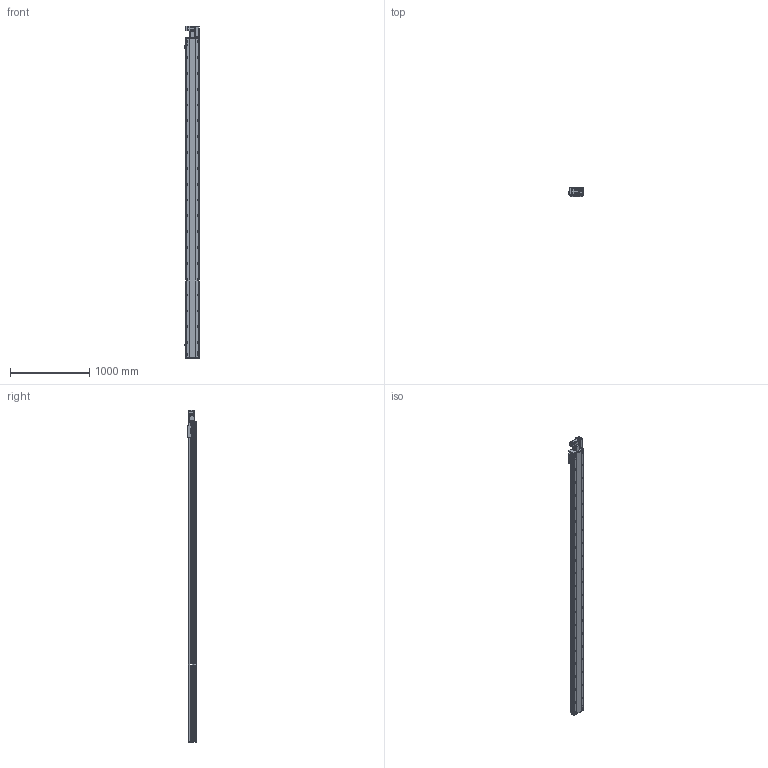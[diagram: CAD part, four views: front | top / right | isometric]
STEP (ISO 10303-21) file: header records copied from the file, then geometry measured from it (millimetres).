
FILE_DESCRIPTION (( 'STEP AP214' ), '1' );
FILE_NAME ('RTB17S-XX-3750-R-M40-C4.STEP', '2025-12-11T08:03:17', ( '' ), ( '' ), 'SwSTEP 2.0', 'SolidWorks 2018', '' );
FILE_SCHEMA (( 'AUTOMOTIVE_DESIGN' ));
Length unit declared in the file: millimetre
Products named in the file (14): RTB17S-L-004佪裝蹟譫蟀諉釱^RTB17S-XX-XX-R-M40-C4; RTB14-L-005P--轴承塑胶压盖^RTB17S-R-皮带座装配-400W_RTB17S-XX-XX-R-M40-C4; OMRON EE-SX672 传感器^RTB17S-XX-XX-R-M40-C4; RTB17S-R-々湍釱蚾饜-400W^RTB17S-XX-XX-R-M40-C4; RTB14-L-017P^RTB17S-R-々湍釱蚾饜-400W_RTB17S-XX-XX-R-M40-C4; RTB17S-L-014-T20--々湍釱^RTB17S-R-々湍釱蚾饜-400W_RTB17S-XX-XX-R-M40-C4; RTH13-BL-012覜茼え俋离^RTB17S-XX-XX-R-M40-C4; RTB17S-L-007奻裔^RTB17S-XX-XX-R-M40-C4; 400W侜督萇儂^RTB17S-XX-XX-R-M40-C4; RTB17-R-011菁釱^RTB17S-XX-XX-R-M40-C4; RTB17S-XX-3750-R-M40-C4; RTB14-L-008-M20--萇儂啣^RTB17S-R-々湍釱蚾饜-400W_RTB17S-XX-XX-R-M40-C4; RTB14-L-018P^RTB17S-R-々湍釱蚾饜-400W_RTB17S-XX-XX-R-M40-C4; RTB17S-L-001耜醱啣^RTB17S-XX-XX-R-M40-C4
Assembly tree (16 placements, depth 3):
  RTB17S-XX-3750-R-M40-C4
    RTB17-R-011菁釱^RTB17S-XX-XX-R-M40-C4
    RTB17S-L-007奻裔^RTB17S-XX-XX-R-M40-C4
    OMRON EE-SX672 传感器^RTB17S-XX-XX-R-M40-C4  x3
    RTB17S-L-001耜醱啣^RTB17S-XX-XX-R-M40-C4
    400W侜督萇儂^RTB17S-XX-XX-R-M40-C4
    RTB17S-L-004佪裝蹟譫蟀諉釱^RTB17S-XX-XX-R-M40-C4
    RTH13-BL-012覜茼え俋离^RTB17S-XX-XX-R-M40-C4
    RTB17S-R-々湍釱蚾饜-400W^RTB17S-XX-XX-R-M40-C4
      RTB17S-L-014-T20--々湍釱^RTB17S-R-々湍釱蚾饜-400W_RTB17S-XX-XX-R-M40-C4
      RTB14-L-005P--轴承塑胶压盖^RTB17S-R-皮带座装配-400W_RTB17S-XX-XX-R-M40-C4
      RTB14-L-008-M20--萇儂啣^RTB17S-R-々湍釱蚾饜-400W_RTB17S-XX-XX-R-M40-C4
      RTB14-L-017P^RTB17S-R-々湍釱蚾饜-400W_RTB17S-XX-XX-R-M40-C4  x2
      RTB14-L-018P^RTB17S-R-々湍釱蚾饜-400W_RTB17S-XX-XX-R-M40-C4
Bounding box: 183.5 x 108 x 4191 mm (x, y, z)
Volume: 34800353.1 mm3; surface area: 3943616.1 mm2
Topology: 15 solids, 15 shells, 2429 faces, 6843 edges, 4473 vertices
Faces by surface type: plane 1096, cylinder 885, bspline 301, cone 139, torus 8
Entity records: 73385 total; most frequent: CARTESIAN_POINT 21048, ORIENTED_EDGE 10530, DIRECTION 9656, EDGE_CURVE 5265, VERTEX_POINT 3461, AXIS2_PLACEMENT_3D 3391, LINE 2874, VECTOR 2874
